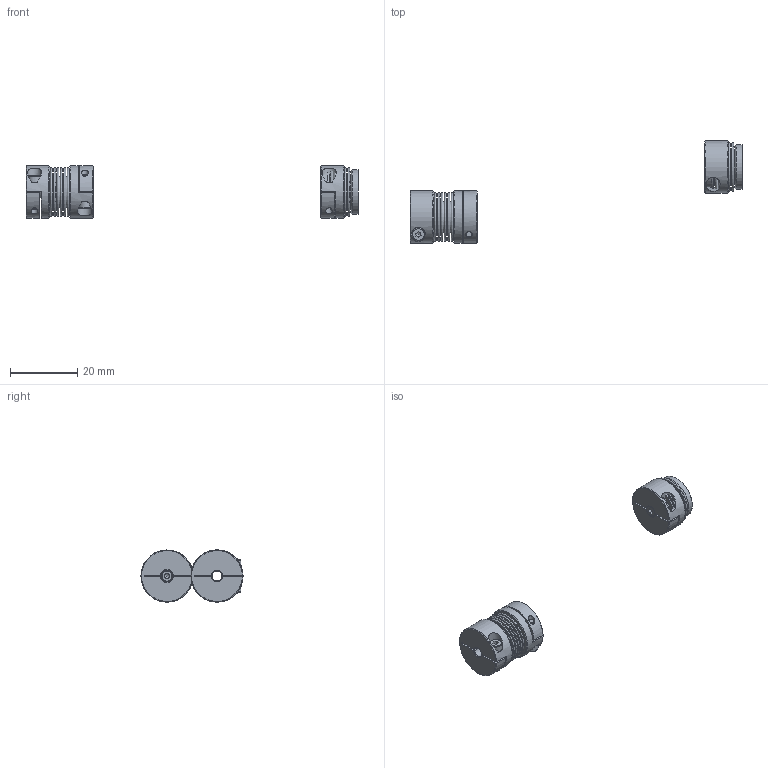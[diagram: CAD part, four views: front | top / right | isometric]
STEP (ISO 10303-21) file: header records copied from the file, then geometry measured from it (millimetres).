
FILE_DESCRIPTION( ( 'Unknown' ), '1' );
FILE_NAME( 'C:/Dokumente und Einstellungen/Sven/Desktop/cad - homepage/KB2/KB2-5-21.stp', 'Unknown', ( 'Unknown' ), ( 'Unknown' ), 'XStep 1.0', 'Unknown', ' ' );
FILE_SCHEMA( ( 'automotive_design' ) );
Length unit declared in the file: millimetre
Products named in the file (4): Assem1; KN5_Standard; BK5_Standard; Socket Head Cap Screw_DIN_DIN 912 M2 x 8 --- 8N_2
Bounding box: 98.71 x 30.37 x 15.5 mm (x, y, z)
Volume: 3882 mm3; surface area: 9723.3 mm2
Topology: 8 solids, 8 shells, 260 faces, 524 edges, 339 vertices
Faces by surface type: plane 138, torus 66, cylinder 38, cone 18
Full cylindrical faces by diameter (mm): 2 x6, 2.2 x3, 3 x3, 3.8 x3, 12.9 x4, 13.1 x4, 15.5 x3
Entity records: 2837 total; most frequent: CARTESIAN_POINT 511, DIRECTION 474, ORIENTED_EDGE 312, AXIS2_PLACEMENT_3D 214, EDGE_LOOP 190, EDGE_CURVE 156, FACE_OUTER_BOUND 150, VERTEX_POINT 129
